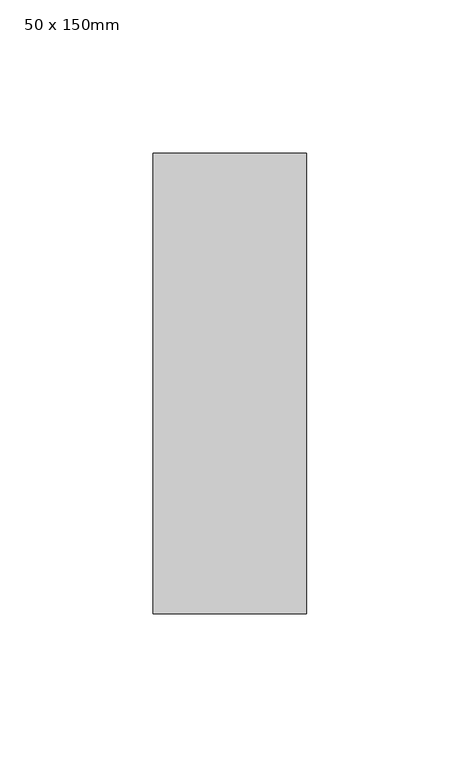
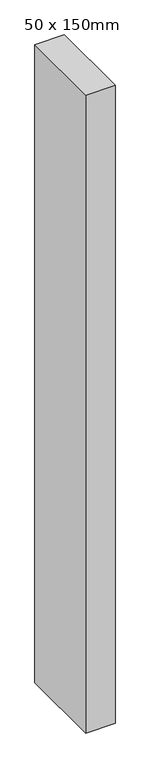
"""IFC4 building model written with IfcOpenShell, lengths in millimetres: member geometry, 矩形豎框 : 50 x 150mm."""

from ifc_helpers import new_model, si_unit, frame, origin, place, context, project, spatial, polyline, outline, extrude, source, transform, mapped, element, save


def member_50_x_150mm_aa95aaac(model_context):
    return source(origin(), model_context, "Body", "SweptSolid", [
        extrude(outline(polyline([(25.0, 75.0), (25.0, -75.0), (-25.0, -75.0), (-25.0, 75.0), (25.0, 75.0)])), frame((0.0, 0.0, -1149.8779336), z_axis=(0.0, 0.0, 1.0), x_axis=(1.0, 0.0, 0.0)), (0.0, 0.0, 1.0), 1149.8779336),
    ])


if __name__ == "__main__":
    model = new_model("IFC4")
    model_context = context("Model", 3, world=origin())
    ifc_project = project(units=[si_unit("LENGTHUNIT", "METRE", prefix="MILLI")], contexts=[model_context])
    site = spatial("IfcSite", under=ifc_project)
    building = spatial("IfcBuilding", under=site)
    placement = place(None, origin())
    member_50_x_150mm_shape = member_50_x_150mm_aa95aaac(model_context)
    element("IfcMember", 1, ObjectType="矩形豎框 : 50 x 150mm", at=placement, inside=building, context=model_context, shape_type="MappedRepresentation", body=[
        mapped(member_50_x_150mm_shape, transform((0.0, 0.0, 0.0), x_axis=(1.0, 0.0, 0.0), y_axis=(0.0, 1.0, 0.0), z_axis=(0.0, 0.0, 1.0))),
    ])
    save(model, "model.ifc")
